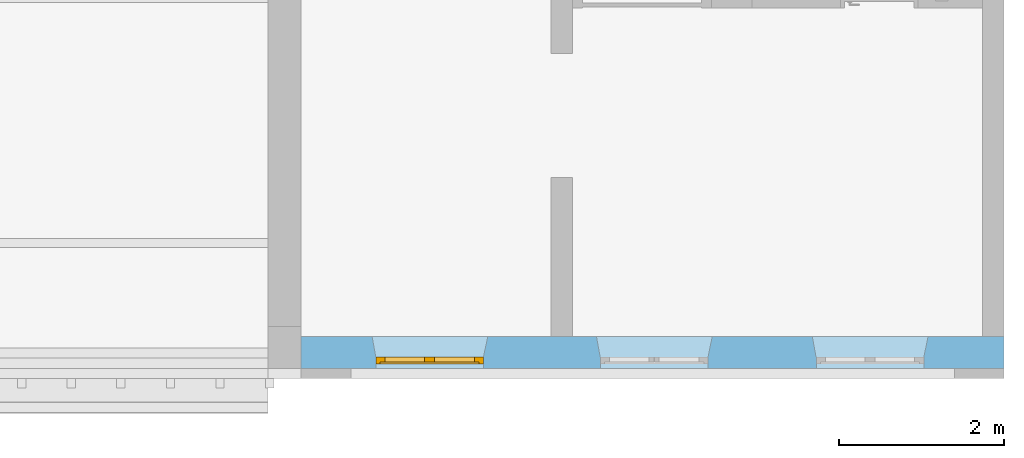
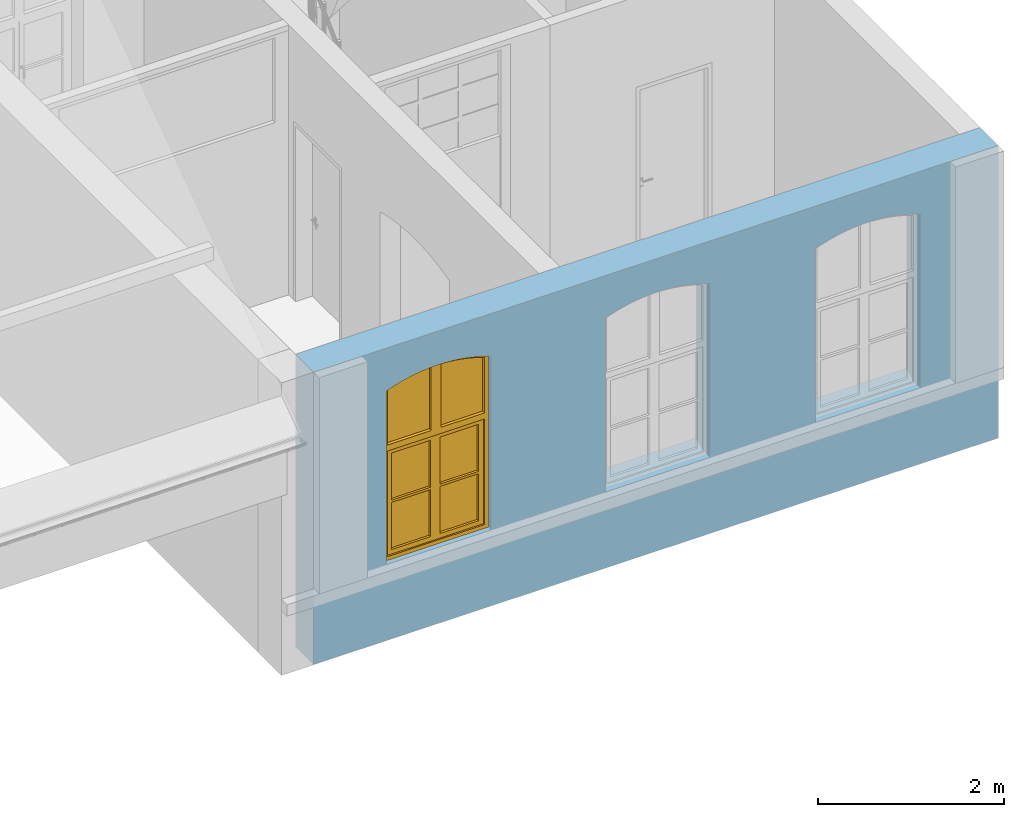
"""IFC4 building model written with IfcOpenShell, lengths in metres."""

from ifc_helpers import new_model, entity, si_unit, converted_unit, derived_unit, frame, frame_2d, origin, origin_with_axes, place, context, subcontext, project, spatial, polyline, rectangle, outline, extrude, closed_shell, open_shell, surface_model, source, transform, mapped, material, layer, layer_set, layer_usage, element, fill, save


model = new_model("IFC4")

# Units and contexts
model_context = context("Model", 3, precision=1e-05, world=origin())
body_context = subcontext(model_context, "Body", "Model", "MODEL_VIEW")
ifc_project = project(units=[si_unit("LENGTHUNIT", "METRE"), si_unit("AREAUNIT", "SQUARE_METRE"), si_unit("VOLUMEUNIT", "CUBIC_METRE"), si_unit("MASSUNIT", "GRAM", prefix="KILO"), converted_unit("PLANEANGLEUNIT", "DEGREE", entity("IfcPlaneAngleMeasure", 0.0174532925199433), si_unit("PLANEANGLEUNIT", "RADIAN"), dimensions=[0, 0, 0, 0, 0, 0, 0]), derived_unit("THERMALTRANSMITTANCEUNIT", [(si_unit("POWERUNIT", "WATT"), 1), (si_unit("THERMODYNAMICTEMPERATUREUNIT", "KELVIN"), -1), (si_unit("LENGTHUNIT", "METRE"), -2)]), derived_unit("VOLUMETRICFLOWRATEUNIT", [(si_unit("LENGTHUNIT", "METRE"), 3), (converted_unit("TIMEUNIT", "hour", entity("IfcTimeMeasure", 3600.0), si_unit("TIMEUNIT", "SECOND"), dimensions=[0, 0, 1, 0, 0, 0, 0]), -1), (si_unit("LENGTHUNIT", "METRE"), -1)])], contexts=[model_context])

# Building, storeys
building_placement = place(None, origin())
building = spatial("IfcBuilding", under=ifc_project, at=building_placement, Name="Bestandsgebäude A - Sporthalle / Wohnhaus (TB 100-499)   ANPASSEN !!!", CompositionType="ELEMENT")
storey_1_placement = place(building_placement, frame((0.0, 0.0, 3.87)))
storey_1 = spatial("IfcBuildingStorey", under=building, at=storey_1_placement, Name="Geb. A 1. Obergeschoss (TB 250-299)", CompositionType="ELEMENT", Elevation=3.87)
storey_2_placement = place(storey_1_placement, frame((0.0, 0.0, 3.87)))
storey_2 = spatial("IfcBuildingStorey", under=storey_1, at=storey_2_placement, Name="Architektur (TB 250-259)", CompositionType="PARTIAL")

# Wall, openings, window
ifc_material = material(Name="concrete")
ifc_layer = layer(ifc_material, 0.39)
ifc_layer_set = layer_set([ifc_layer])
ifc_layer_usage = layer_usage(ifc_layer_set, "AXIS2", "POSITIVE", 0.0)
wall_placement = place(storey_2_placement, frame((-8.5, 0.0, -4.27), z_axis=(0.0, 0.0, 1.0), x_axis=(1.0, -3.67027395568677e-16, 0.0)))
wall = element("IfcWall", 1, at=wall_placement, inside=storey_2, material=ifc_layer_usage, Name="reinforced - bearing", PredefinedType="USERDEFINED", context=body_context, shape_type="SweptSolid", body=[
    extrude(rectangle(XDim=8.5, YDim=0.39, at=frame_2d((4.25, 0.195), x_axis=(1.0, 0.0))), origin_with_axes(), (0.0, 0.0, 1.0), 3.84),
])
opening_1_placement = place(wall_placement, frame((7.58213541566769, 0.39, 1.0), z_axis=(0.0, 0.0, 1.0), x_axis=(-1.0, 0.0, 0.0)))
element("IfcOpeningElement", 2, at=opening_1_placement, cuts=wall, Name="Wall Niche", ObjectType="Opening", context=body_context, shape_type="SweptSolid", body=[
    extrude(outline(polyline([(0.0, 0.0), (1.4, 0.0), (1.3549652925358, 0.25), (0.0521354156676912, 0.25), (0.0, 0.0)])), origin_with_axes(), (0.0, 0.0, 1.0), 2.4),
])
opening_2_placement = place(wall_placement, frame((4.97156563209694, 0.39, 1.0), z_axis=(0.0, 0.0, 1.0), x_axis=(-1.0, 0.0, 0.0)))
element("IfcOpeningElement", 3, at=opening_2_placement, cuts=wall, Name="Wall Niche", ObjectType="Opening", context=body_context, shape_type="SweptSolid", body=[
    extrude(outline(polyline([(0.0, 0.0), (1.4, 0.0), (1.3549652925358, 0.25), (0.0515656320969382, 0.25), (0.0, 0.0)])), origin_with_axes(), (0.0, 0.0, 1.0), 2.4),
])
opening_3_placement = place(wall_placement, frame((2.25788092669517, 0.39, 1.0), z_axis=(0.0, 0.0, 1.0), x_axis=(-1.0, 0.0, 0.0)))
element("IfcOpeningElement", 4, at=opening_3_placement, cuts=wall, Name="Wall Niche", ObjectType="Opening", context=body_context, shape_type="SweptSolid", body=[
    extrude(outline(polyline([(0.0, 0.0), (1.4, 0.0), (1.35423986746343, 0.25), (0.0542398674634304, 0.25), (0.0, 0.0)])), origin_with_axes(), (0.0, 0.0, 1.0), 2.4),
])
opening_4_placement = place(wall_placement, frame((0.903641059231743, 0.0, 1.0), z_axis=(-2.91504712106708e-16, 1.0, 0.0), x_axis=(0.0, 0.0, 1.0)))
opening_4 = element("IfcOpeningElement", 5, at=opening_4_placement, cuts=wall, Name="Window opening", PredefinedType="OPENING", context=body_context, shape_type="SweptSolid", body=[
    extrude(outline(polyline([(2.28, 1.3), (2.29531656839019, 1.25842115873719), (2.30961661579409, 1.21648184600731), (2.3228916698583, 1.17420690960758), (2.33513386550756, 1.1316213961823), (2.34633594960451, 1.08875053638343), (2.35649128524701, 1.04561972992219), (2.36559385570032, 1.00225453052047), (2.37363826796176, 0.958680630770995), (2.38061975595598, 0.914923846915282), (2.38653418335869, 0.871010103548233), (2.39137804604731, 0.826965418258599), (2.39514847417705, 0.782815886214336), (2.39784323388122, 0.738587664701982), (2.39946072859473, 0.694306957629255), (2.4, 0.650000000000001), (2.39946072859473, 0.605693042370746), (2.39784323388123, 0.561412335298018), (2.39514847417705, 0.517184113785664), (2.39137804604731, 0.4730345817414), (2.38653418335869, 0.428989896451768), (2.38061975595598, 0.385076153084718), (2.37363826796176, 0.341319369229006), (2.36559385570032, 0.297745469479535), (2.35649128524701, 0.254380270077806), (2.3463359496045, 0.211249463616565), (2.33513386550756, 0.1683786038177), (2.3228916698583, 0.125793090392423), (2.30961661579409, 0.0835181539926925), (2.29531656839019, 0.0415788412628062), (2.28, 0.0), (0.0, 0.0), (0.0, 1.3), (2.28, 1.3)])), origin_with_axes(), (0.0, 0.0, 1.0), 0.39),
])
opening_5_placement = place(wall_placement, frame((3.62, 0.0, 1.0), z_axis=(0.0, 1.0, 0.0), x_axis=(0.0, 0.0, 1.0)))
element("IfcOpeningElement", 6, at=opening_5_placement, cuts=wall, Name="Window opening", PredefinedType="OPENING", context=body_context, shape_type="SweptSolid", body=[
    extrude(outline(polyline([(2.28, 1.3), (2.29531656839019, 1.25842115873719), (2.30961661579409, 1.21648184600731), (2.3228916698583, 1.17420690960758), (2.33513386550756, 1.1316213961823), (2.3463359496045, 1.08875053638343), (2.35649128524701, 1.04561972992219), (2.36559385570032, 1.00225453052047), (2.37363826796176, 0.958680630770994), (2.38061975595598, 0.914923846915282), (2.38653418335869, 0.871010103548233), (2.39137804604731, 0.826965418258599), (2.39514847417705, 0.782815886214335), (2.39784323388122, 0.738587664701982), (2.39946072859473, 0.694306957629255), (2.4, 0.65), (2.39946072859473, 0.605693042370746), (2.39784323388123, 0.561412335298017), (2.39514847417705, 0.517184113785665), (2.39137804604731, 0.4730345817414), (2.38653418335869, 0.428989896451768), (2.38061975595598, 0.385076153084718), (2.37363826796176, 0.341319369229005), (2.36559385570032, 0.297745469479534), (2.35649128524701, 0.254380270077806), (2.3463359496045, 0.211249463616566), (2.33513386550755, 0.1683786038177), (2.3228916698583, 0.125793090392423), (2.30961661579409, 0.0835181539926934), (2.29531656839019, 0.0415788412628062), (2.28, 0.0), (0.0, 0.0), (0.0, 1.3), (2.28, 1.3)])), origin_with_axes(), (0.0, 0.0, 1.0), 0.39),
])
opening_6_placement = place(wall_placement, frame((6.23, 0.0, 1.0), z_axis=(0.0, 1.0, 0.0), x_axis=(0.0, 0.0, 1.0)))
element("IfcOpeningElement", 7, at=opening_6_placement, cuts=wall, Name="Window opening", PredefinedType="OPENING", context=body_context, shape_type="SweptSolid", body=[
    extrude(outline(polyline([(2.28, 1.3), (2.29531656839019, 1.25842115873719), (2.30961661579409, 1.21648184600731), (2.3228916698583, 1.17420690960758), (2.33513386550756, 1.1316213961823), (2.3463359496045, 1.08875053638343), (2.35649128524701, 1.04561972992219), (2.36559385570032, 1.00225453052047), (2.37363826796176, 0.958680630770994), (2.38061975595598, 0.914923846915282), (2.38653418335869, 0.871010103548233), (2.39137804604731, 0.826965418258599), (2.39514847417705, 0.782815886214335), (2.39784323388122, 0.738587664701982), (2.39946072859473, 0.694306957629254), (2.4, 0.65), (2.39946072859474, 0.605693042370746), (2.39784323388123, 0.561412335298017), (2.39514847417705, 0.517184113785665), (2.39137804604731, 0.4730345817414), (2.38653418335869, 0.428989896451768), (2.38061975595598, 0.385076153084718), (2.37363826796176, 0.341319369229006), (2.36559385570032, 0.297745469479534), (2.35649128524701, 0.254380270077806), (2.3463359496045, 0.211249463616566), (2.33513386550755, 0.168378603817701), (2.3228916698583, 0.125793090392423), (2.30961661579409, 0.083518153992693), (2.29531656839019, 0.0415788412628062), (2.28, 0.0), (0.0, 0.0), (0.0, 1.3), (2.28, 1.3)])), origin_with_axes(), (0.0, 0.0, 1.0), 0.39),
])
shared_shape = source(origin_with_axes(), body_context, "Body", "SurfaceModel", [
    surface_model("IfcShellBasedSurfaceModel", [(1.258421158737, 0.0, 2.29531656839), (1.3, 0.0, 2.28), (1.3, 0.0, 0.0), (0.0, 0.0, 0.0), (0.0, 0.0, 2.28), (0.041578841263, 0.0, 2.29531656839), (0.0835181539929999, 0.0, 2.309616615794), (0.125793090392, 0.0, 2.322891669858), (0.168378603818, 0.0, 2.335133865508), (0.211249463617, 0.0, 2.346335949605), (0.254380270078, 0.0, 2.356491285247), (0.29774546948, 0.0, 2.3655938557), (0.341319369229, 0.0, 2.373638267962), (0.385076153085, 0.0, 2.380619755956), (0.428989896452, 0.0, 2.386534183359), (0.473034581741, 0.0, 2.391378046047), (0.517184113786, 0.0, 2.395148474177), (0.561412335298, 0.0, 2.397843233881), (0.605693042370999, 0.0, 2.399460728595), (0.649999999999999, 0.0, 2.4), (0.694306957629, 0.0, 2.399460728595), (0.738587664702, 0.0, 2.397843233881), (0.782815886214, 0.0, 2.395148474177), (0.826965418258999, 0.0, 2.391378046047), (0.871010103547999, 0.0, 2.386534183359), (0.914923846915, 0.0, 2.380619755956), (0.958680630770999, 0.0, 2.373638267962), (1.00225453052, 0.0, 2.3655938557), (1.045619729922, 0.0, 2.356491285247), (1.088750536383, 0.0, 2.346335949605), (1.131621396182, 0.0, 2.335133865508), (1.174206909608, 0.0, 2.322891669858), (1.216481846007, 0.0, 2.309616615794), (1.25, 0.0, 2.2451341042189), (1.24170887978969, 0.0, 2.2481883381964), (1.20092156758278, 0.0, 2.26209558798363), (1.15980785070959, 0.0, 2.27500599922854), (1.11839208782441, 0.0, 2.28691192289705), (1.07669881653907, 0.0, 2.2978063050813), (1.03475273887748, 0.0, 2.30768269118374), (0.992578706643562, 0.0, 2.31653522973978), (0.950201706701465, 0.0, 2.32435867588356), (0.907646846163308, 0.0, 2.33114839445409), (0.86493933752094, 0.0, 2.33690036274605), (0.822104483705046, 0.0, 2.34161117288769), (0.779167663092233, 0.0, 2.34527803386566), (0.736154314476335, 0.0, 2.34789877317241), (0.693089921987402, 0.0, 2.3494718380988), (0.649999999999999, 0.0, 2.34999629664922), (0.606910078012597, 0.0, 2.3494718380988), (0.563845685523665, 0.0, 2.34789877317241), (0.520832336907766, 0.0, 2.34527803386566), (0.477895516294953, 0.0, 2.34161117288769), (0.435060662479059, 0.0, 2.33690036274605), (0.392353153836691, 0.0, 2.33114839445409), (0.349798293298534, 0.0, 2.32435867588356), (0.307421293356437, 0.0, 2.31653522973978), (0.265247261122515, 0.0, 2.30768269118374), (0.223301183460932, 0.0, 2.2978063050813), (0.181607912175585, 0.0, 2.28691192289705), (0.140192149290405, 0.0, 2.27500599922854), (0.0990784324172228, 0.0, 2.26209558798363), (0.0582911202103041, 0.0, 2.2481883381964), (0.05, 0.0, 2.2451341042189), (0.05, 0.0, 0.05), (1.25, 0.0, 0.05), (1.3, 0.0799999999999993, 2.28), (1.258421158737, 0.0799999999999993, 2.29531656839), (1.216481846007, 0.0799999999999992, 2.309616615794), (1.174206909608, 0.0799999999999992, 2.322891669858), (1.131621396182, 0.0799999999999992, 2.335133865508), (1.088750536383, 0.0799999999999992, 2.346335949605), (1.045619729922, 0.0799999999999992, 2.356491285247), (1.00225453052, 0.0799999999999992, 2.3655938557), (0.958680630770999, 0.0799999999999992, 2.373638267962), (0.914923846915, 0.0799999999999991, 2.380619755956), (0.871010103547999, 0.0799999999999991, 2.386534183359), (0.826965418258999, 0.0799999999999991, 2.391378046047), (0.782815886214, 0.0799999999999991, 2.395148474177), (0.738587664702, 0.079999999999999, 2.397843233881), (0.694306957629, 0.079999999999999, 2.399460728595), (0.649999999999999, 0.079999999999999, 2.4), (0.605693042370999, 0.079999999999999, 2.399460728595), (0.561412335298, 0.079999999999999, 2.397843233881), (0.517184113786, 0.079999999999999, 2.395148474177), (0.473034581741, 0.0799999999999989, 2.391378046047), (0.428989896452, 0.0799999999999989, 2.386534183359), (0.385076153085, 0.0799999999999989, 2.380619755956), (0.341319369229, 0.0799999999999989, 2.373638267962), (0.29774546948, 0.0799999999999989, 2.3655938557), (0.254380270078, 0.0799999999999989, 2.356491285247), (0.211249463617, 0.0799999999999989, 2.346335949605), (0.168378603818, 0.0799999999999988, 2.335133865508), (0.125793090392, 0.0799999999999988, 2.322891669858), (0.0835181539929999, 0.0799999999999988, 2.309616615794), (0.041578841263, 0.0799999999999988, 2.29531656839), (0.0, 0.0799999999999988, 2.28), (0.0, 0.0799999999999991, 0.0), (1.3, 0.0799999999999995, 0.0), (1.24170887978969, 0.0799999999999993, 2.2481883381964), (1.25, 0.0799999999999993, 2.2451341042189), (1.25, 0.0799999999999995, 0.05), (0.05, 0.0799999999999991, 0.05), (0.05, 0.0799999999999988, 2.2451341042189), (0.0582911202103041, 0.0799999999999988, 2.2481883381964), (0.0990784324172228, 0.0799999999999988, 2.26209558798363), (0.140192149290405, 0.0799999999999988, 2.27500599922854), (0.181607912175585, 0.0799999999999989, 2.28691192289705), (0.223301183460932, 0.0799999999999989, 2.2978063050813), (0.265247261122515, 0.0799999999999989, 2.30768269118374), (0.307421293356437, 0.0799999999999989, 2.31653522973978), (0.349798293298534, 0.0799999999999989, 2.32435867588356), (0.392353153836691, 0.0799999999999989, 2.33114839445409), (0.435060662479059, 0.0799999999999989, 2.33690036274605), (0.477895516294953, 0.079999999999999, 2.34161117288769), (0.520832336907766, 0.079999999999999, 2.34527803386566), (0.563845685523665, 0.079999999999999, 2.34789877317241), (0.606910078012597, 0.079999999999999, 2.3494718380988), (0.649999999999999, 0.079999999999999, 2.34999629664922), (0.693089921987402, 0.079999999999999, 2.3494718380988), (0.736154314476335, 0.0799999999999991, 2.34789877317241), (0.779167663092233, 0.0799999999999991, 2.34527803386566), (0.822104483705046, 0.0799999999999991, 2.34161117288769), (0.86493933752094, 0.0799999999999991, 2.33690036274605), (0.907646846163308, 0.0799999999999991, 2.33114839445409), (0.950201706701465, 0.0799999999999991, 2.32435867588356), (0.992578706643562, 0.0799999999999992, 2.31653522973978), (1.03475273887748, 0.0799999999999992, 2.30768269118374), (1.07669881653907, 0.0799999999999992, 2.2978063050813), (1.11839208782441, 0.0799999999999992, 2.28691192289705), (1.15980785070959, 0.0799999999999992, 2.27500599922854), (1.20092156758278, 0.0799999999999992, 2.26209558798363)], [closed_shell([[[0, 1, 2, 3, 4, 5, 6, 7, 8, 9, 10, 11, 12, 13, 14, 15, 16, 17, 18, 19, 20, 21, 22, 23, 24, 25, 26, 27, 28, 29, 30, 31, 32], [33, 34, 35, 36, 37, 38, 39, 40, 41, 42, 43, 44, 45, 46, 47, 48, 49, 50, 51, 52, 53, 54, 55, 56, 57, 58, 59, 60, 61, 62, 63, 64, 65]], [[66, 67, 68, 69, 70, 71, 72, 73, 74, 75, 76, 77, 78, 79, 80, 81, 82, 83, 84, 85, 86, 87, 88, 89, 90, 91, 92, 93, 94, 95, 96, 97, 98], [99, 100, 101, 102, 103, 104, 105, 106, 107, 108, 109, 110, 111, 112, 113, 114, 115, 116, 117, 118, 119, 120, 121, 122, 123, 124, 125, 126, 127, 128, 129, 130, 131]], [[1, 0, 67, 66]], [[2, 1, 66, 98]], [[3, 2, 98, 97]], [[4, 3, 97, 96]], [[5, 4, 96, 95]], [[6, 5, 95, 94]], [[7, 6, 94, 93]], [[8, 7, 93, 92]], [[9, 8, 92, 91]], [[10, 9, 91, 90]], [[11, 10, 90, 89]], [[12, 11, 89, 88]], [[13, 12, 88, 87]], [[14, 13, 87, 86]], [[15, 14, 86, 85]], [[16, 15, 85, 84]], [[17, 16, 84, 83]], [[18, 17, 83, 82]], [[19, 18, 82, 81]], [[20, 19, 81, 80]], [[21, 20, 80, 79]], [[22, 21, 79, 78]], [[23, 22, 78, 77]], [[24, 23, 77, 76]], [[25, 24, 76, 75]], [[26, 25, 75, 74]], [[27, 26, 74, 73]], [[28, 27, 73, 72]], [[29, 28, 72, 71]], [[30, 29, 71, 70]], [[31, 30, 70, 69]], [[32, 31, 69, 68]], [[0, 32, 68, 67]], [[33, 100, 99, 34]], [[65, 101, 100, 33]], [[64, 102, 101, 65]], [[63, 103, 102, 64]], [[62, 104, 103, 63]], [[61, 105, 104, 62]], [[60, 106, 105, 61]], [[59, 107, 106, 60]], [[58, 108, 107, 59]], [[57, 109, 108, 58]], [[56, 110, 109, 57]], [[55, 111, 110, 56]], [[54, 112, 111, 55]], [[53, 113, 112, 54]], [[52, 114, 113, 53]], [[51, 115, 114, 52]], [[50, 116, 115, 51]], [[49, 117, 116, 50]], [[48, 118, 117, 49]], [[47, 119, 118, 48]], [[46, 120, 119, 47]], [[45, 121, 120, 46]], [[44, 122, 121, 45]], [[43, 123, 122, 44]], [[42, 124, 123, 43]], [[41, 125, 124, 42]], [[40, 126, 125, 41]], [[39, 127, 126, 40]], [[38, 128, 127, 39]], [[37, 129, 128, 38]], [[36, 130, 129, 37]], [[35, 131, 130, 36]], [[34, 99, 131, 35]]], orient=[[False, False], [False, False], [False], [False], [False], [False], [False], [False], [False], [False], [False], [False], [False], [False], [False], [False], [False], [False], [False], [False], [False], [False], [False], [False], [False], [False], [False], [False], [False], [False], [False], [False], [False], [False], [False], [False], [False], [False], [False], [False], [False], [False], [False], [False], [False], [False], [False], [False], [False], [False], [False], [False], [False], [False], [False], [False], [False], [False], [False], [False], [False], [False], [False], [False], [False], [False], [False], [False]])]),
    surface_model("IfcShellBasedSurfaceModel", [(1.25, 0.0, 1.5156198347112), (1.25, 0.0, 1.4356198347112), (0.05, 0.0, 1.4356198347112), (0.05, 0.0, 1.5156198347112), (1.25, 0.0799999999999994, 1.4356198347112), (1.25, 0.0799999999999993, 1.5156198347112), (0.05, 0.0799999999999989, 1.5156198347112), (0.05, 0.0799999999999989, 1.4356198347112)], [closed_shell([[[0, 1, 2, 3]], [[4, 5, 6, 7]], [[1, 0, 5, 4]], [[2, 1, 4, 7]], [[3, 2, 7, 6]], [[0, 3, 6, 5]]], orient=[[False], [False], [False], [False], [False], [False]])]),
    surface_model("IfcShellBasedSurfaceModel", [(0.709999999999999, 0.0, 2.34885414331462), (0.709999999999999, 0.0, 1.5156198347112), (0.589999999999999, 0.0, 1.5156198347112), (0.589999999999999, 0.0, 2.34885414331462), (0.606910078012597, 0.0, 2.3494718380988), (0.649999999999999, 0.0, 2.34999629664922), (0.693089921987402, 0.0, 2.3494718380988), (0.709999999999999, 0.0799999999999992, 1.5156198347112), (0.709999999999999, 0.0799999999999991, 2.34885414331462), (0.693089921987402, 0.079999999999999, 2.3494718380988), (0.649999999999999, 0.079999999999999, 2.34999629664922), (0.606910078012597, 0.079999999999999, 2.3494718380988), (0.589999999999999, 0.079999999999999, 2.34885414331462), (0.589999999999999, 0.0799999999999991, 1.5156198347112)], [closed_shell([[[0, 1, 2, 3, 4, 5, 6]], [[7, 8, 9, 10, 11, 12, 13]], [[1, 0, 8, 7]], [[2, 1, 7, 13]], [[3, 2, 13, 12]], [[4, 3, 12, 11]], [[5, 4, 11, 10]], [[6, 5, 10, 9]], [[0, 6, 9, 8]]], orient=[[False], [False], [False], [False], [False], [False], [False], [False], [False]])]),
    surface_model("IfcShellBasedSurfaceModel", [(0.650499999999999, 0.0, 0.05), (0.650499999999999, 0.0, 1.4356198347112), (1.25, 0.0, 1.4356198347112), (1.25, 0.0, 0.05), (0.710499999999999, 0.0, 1.3756198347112), (0.710499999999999, 0.0, 0.11), (1.19, 0.0, 0.11), (1.19, 0.0, 1.3756198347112), (0.650499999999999, 0.059999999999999, 1.4356198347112), (0.650499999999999, 0.0599999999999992, 0.05), (1.25, 0.0599999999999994, 0.05), (1.25, 0.0599999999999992, 1.4356198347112), (0.710499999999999, 0.0599999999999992, 0.11), (0.710499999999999, 0.0599999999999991, 1.3756198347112), (1.19, 0.0599999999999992, 1.3756198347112), (1.19, 0.0599999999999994, 0.11)], [closed_shell([[[0, 1, 2, 3], [4, 5, 6, 7]], [[8, 9, 10, 11], [12, 13, 14, 15]], [[1, 0, 9, 8]], [[2, 1, 8, 11]], [[3, 2, 11, 10]], [[0, 3, 10, 9]], [[4, 13, 12, 5]], [[7, 14, 13, 4]], [[6, 15, 14, 7]], [[5, 12, 15, 6]]], orient=[[False, False], [False, False], [False], [False], [False], [False], [False], [False], [False], [False]])]),
    surface_model("IfcShellBasedSurfaceModel", [(0.649499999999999, 0.0, 1.4356198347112), (0.649499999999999, 0.0, 0.05), (0.05, 0.0, 0.05), (0.05, 0.0, 1.4356198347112), (0.589499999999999, 0.0, 0.11), (0.589499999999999, 0.0, 1.3756198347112), (0.11, 0.0, 1.3756198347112), (0.11, 0.0, 0.11), (0.649499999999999, 0.0599999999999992, 0.05), (0.649499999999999, 0.059999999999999, 1.4356198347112), (0.05, 0.0599999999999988, 1.4356198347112), (0.05, 0.059999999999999, 0.05), (0.589499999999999, 0.059999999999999, 1.3756198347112), (0.589499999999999, 0.0599999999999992, 0.11), (0.11, 0.059999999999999, 0.11), (0.11, 0.0599999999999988, 1.3756198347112)], [closed_shell([[[0, 1, 2, 3], [4, 5, 6, 7]], [[8, 9, 10, 11], [12, 13, 14, 15]], [[1, 0, 9, 8]], [[2, 1, 8, 11]], [[3, 2, 11, 10]], [[0, 3, 10, 9]], [[4, 13, 12, 5]], [[7, 14, 13, 4]], [[6, 15, 14, 7]], [[5, 12, 15, 6]]], orient=[[False, False], [False, False], [False], [False], [False], [False], [False], [False], [False], [False]])]),
    surface_model("IfcShellBasedSurfaceModel", [(0.589499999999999, 0.0, 0.7578099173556), (0.589499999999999, 0.0, 0.7278099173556), (0.11, 0.0, 0.7278099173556), (0.11, 0.0, 0.7578099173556), (0.589499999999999, 0.0599999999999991, 0.7278099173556), (0.589499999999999, 0.0599999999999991, 0.7578099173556), (0.11, 0.0599999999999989, 0.7578099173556), (0.11, 0.0599999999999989, 0.7278099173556)], [closed_shell([[[0, 1, 2, 3]], [[4, 5, 6, 7]], [[1, 0, 5, 4]], [[2, 1, 4, 7]], [[3, 2, 7, 6]], [[0, 3, 6, 5]]], orient=[[False], [False], [False], [False], [False], [False]])]),
    surface_model("IfcShellBasedSurfaceModel", [(1.24170887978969, 0.0399999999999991, 2.2481883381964), (1.25, 0.0399999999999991, 2.2451341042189), (1.25, 0.0399999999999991, 1.5156198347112), (0.709999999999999, 0.0399999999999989, 1.5156198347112), (0.709999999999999, 0.0399999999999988, 2.34885414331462), (0.736154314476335, 0.0399999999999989, 2.34789877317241), (0.779167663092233, 0.0399999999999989, 2.34527803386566), (0.822104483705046, 0.0399999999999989, 2.34161117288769), (0.86493933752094, 0.0399999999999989, 2.33690036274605), (0.907646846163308, 0.0399999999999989, 2.33114839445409), (0.950201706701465, 0.0399999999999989, 2.32435867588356), (0.992578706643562, 0.0399999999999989, 2.31653522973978), (1.03475273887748, 0.039999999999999, 2.30768269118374), (1.07669881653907, 0.039999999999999, 2.2978063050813), (1.11839208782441, 0.039999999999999, 2.28691192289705), (1.15980785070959, 0.039999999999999, 2.27500599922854), (1.20092156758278, 0.039999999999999, 2.26209558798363)], [open_shell([[[0, 1, 2, 3, 4, 5, 6, 7, 8, 9, 10, 11, 12, 13, 14, 15, 16]]], orient=[[False]])]),
    surface_model("IfcShellBasedSurfaceModel", [(0.563845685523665, 0.0399999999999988, 2.34789877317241), (0.589999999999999, 0.0399999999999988, 2.34885414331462), (0.589999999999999, 0.0399999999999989, 1.5156198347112), (0.05, 0.0399999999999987, 1.5156198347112), (0.05, 0.0399999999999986, 2.2451341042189), (0.0582911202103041, 0.0399999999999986, 2.2481883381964), (0.0990784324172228, 0.0399999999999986, 2.26209558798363), (0.140192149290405, 0.0399999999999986, 2.27500599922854), (0.181607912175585, 0.0399999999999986, 2.28691192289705), (0.223301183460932, 0.0399999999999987, 2.2978063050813), (0.265247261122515, 0.0399999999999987, 2.30768269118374), (0.307421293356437, 0.0399999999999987, 2.31653522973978), (0.349798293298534, 0.0399999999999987, 2.32435867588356), (0.392353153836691, 0.0399999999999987, 2.33114839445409), (0.435060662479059, 0.0399999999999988, 2.33690036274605), (0.477895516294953, 0.0399999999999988, 2.34161117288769), (0.520832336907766, 0.0399999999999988, 2.34527803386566)], [open_shell([[[0, 1, 2, 3, 4, 5, 6, 7, 8, 9, 10, 11, 12, 13, 14, 15, 16]]], orient=[[False]])]),
    surface_model("IfcShellBasedSurfaceModel", [(0.589499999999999, 0.0299999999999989, 0.7278099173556), (0.589499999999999, 0.029999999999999, 0.11), (0.11, 0.0299999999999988, 0.11), (0.11, 0.0299999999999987, 0.7278099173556)], [open_shell([[[0, 1, 2, 3]]], orient=[[False]])]),
    surface_model("IfcShellBasedSurfaceModel", [(0.11, 0.0299999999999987, 0.7578099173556), (0.11, 0.0299999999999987, 1.3756198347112), (0.589499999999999, 0.0299999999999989, 1.3756198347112), (0.589499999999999, 0.0299999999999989, 0.7578099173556)], [open_shell([[[0, 1, 2, 3]]], orient=[[False]])]),
    surface_model("IfcShellBasedSurfaceModel", [(1.19, 0.0, 0.7578099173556), (1.19, 0.0, 0.7278099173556), (0.710499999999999, 0.0, 0.7278099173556), (0.710499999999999, 0.0, 0.7578099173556), (1.19, 0.0599999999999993, 0.7278099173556), (1.19, 0.0599999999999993, 0.7578099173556), (0.710499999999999, 0.0599999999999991, 0.7578099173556), (0.710499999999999, 0.0599999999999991, 0.7278099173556)], [closed_shell([[[0, 1, 2, 3]], [[4, 5, 6, 7]], [[1, 0, 5, 4]], [[2, 1, 4, 7]], [[3, 2, 7, 6]], [[0, 3, 6, 5]]], orient=[[False], [False], [False], [False], [False], [False]])]),
    surface_model("IfcShellBasedSurfaceModel", [(1.19, 0.0299999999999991, 0.7278099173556), (1.19, 0.0299999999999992, 0.11), (0.710499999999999, 0.029999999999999, 0.11), (0.710499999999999, 0.029999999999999, 0.7278099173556)], [open_shell([[[0, 1, 2, 3]]], orient=[[False]])]),
    surface_model("IfcShellBasedSurfaceModel", [(0.710499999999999, 0.029999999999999, 0.7578099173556), (0.710499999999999, 0.0299999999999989, 1.3756198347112), (1.19, 0.0299999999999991, 1.3756198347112), (1.19, 0.0299999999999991, 0.7578099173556)], [open_shell([[[0, 1, 2, 3]]], orient=[[False]])]),
    surface_model("IfcShellBasedSurfaceModel", [(0.11, 0.0299999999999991, 0.11), (0.589499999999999, 0.0299999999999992, 0.7428099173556), (0.11, 0.029999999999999, 1.3756198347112)], [open_shell([[[0, 1, 2]]], orient=[[False]])]),
])
window_placement = place(opening_4_placement, frame((0.0, 1.3, 0.14), z_axis=(1.0, 0.0, 0.0), x_axis=(0.0, -1.0, 2.91504712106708e-16)))
window = element("IfcWindow", 8, at=window_placement, inside=storey_2, Name="Window", OverallHeight=2.4, OverallWidth=1.3, PartitioningType="USERDEFINED", PredefinedType="WINDOW", context=body_context, shape_type="MappedRepresentation", body=[
    mapped(shared_shape, transform((0.0, 0.0, 0.0), x_axis=(1.0, 0.0, 0.0), y_axis=(0.0, 1.0, 0.0), z_axis=(0.0, 0.0, 1.0), scale=1.0)),
])
fill(opening_4, window)

save(model, "model.ifc")
